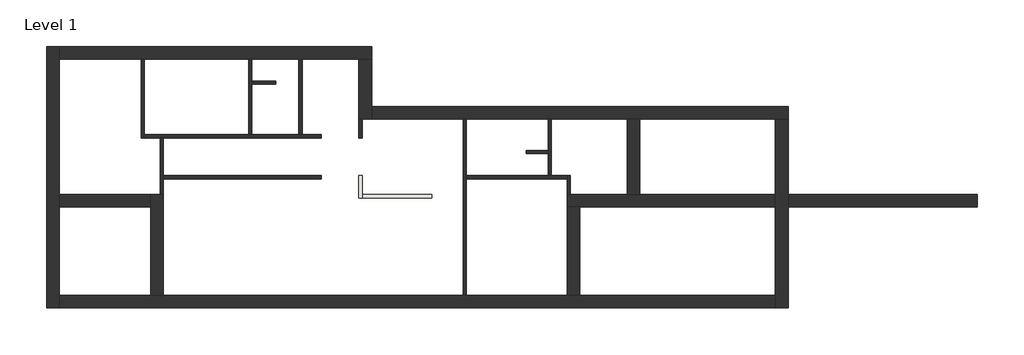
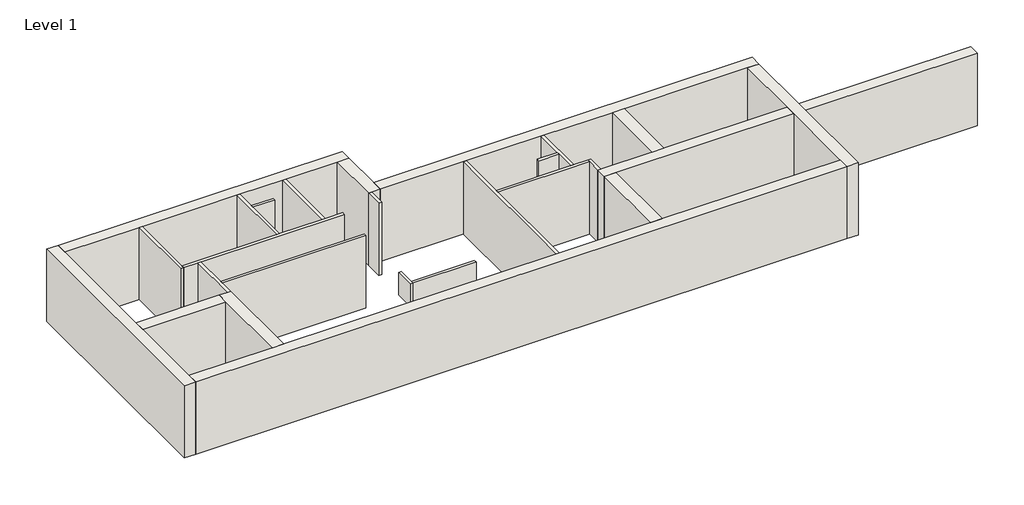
# One storey: 26 walls.
"""IFC4 building model written with IfcOpenShell, lengths in millimetres."""

from ifc_helpers import new_model, si_unit, origin, origin_with_axes, place, context, project, spatial, polyline, outline, extrude, faceted_brep, element, save

model = new_model("IFC4")

# Units and contexts
model_context = context("Model", 3, world=origin())
ifc_project = project(units=[si_unit("LENGTHUNIT", "METRE", prefix="MILLI")], contexts=[model_context])

# Site, building, storey
site = spatial("IfcSite", under=ifc_project)
building = spatial("IfcBuilding", under=site)
storey = spatial("IfcBuildingStorey", under=building, Name="Level 1", Elevation=0.0)

# Walls
placement = place(None, origin())
element("IfcWall", 1, ObjectType="Generic - 120mm (Interior)", at=placement, inside=storey, context=model_context, shape_type="Brep", body=[
    faceted_brep([(3600.0, 9480.0, 0.0), (3600.0, 6480.0, 0.0), (3600.0, 6480.0, 3200.0), (3600.0, 9480.0, 3200.0), (3720.0, 9480.0, 0.0), (3720.0, 9480.0, 3200.0), (3720.0, 6600.0, 3200.0), (3720.0, 6480.0, 3200.0), (3720.0, 6480.0, 0.0), (3720.0, 6600.0, 0.0)], [[[0, 1, 2, 3]], [[4, 5, 6, 7, 8, 9]], [[1, 0, 4, 9, 8]], [[3, 2, 7, 6, 5]], [[2, 1, 8, 7]], [[0, 3, 5, 4]]]),
])
element("IfcWall", 2, ObjectType="Generic - 120mm (Interior)", at=placement, inside=storey, context=model_context, shape_type="Brep", body=[
    faceted_brep([(3720.0, 6480.0, 0.0), (4320.0, 6480.0, 0.0), (4440.0, 6480.0, 0.0), (10440.0, 6480.0, 0.0), (10440.0, 6480.0, 3200.0), (4440.0, 6480.0, 3200.0), (4320.0, 6480.0, 3200.0), (3720.0, 6480.0, 3200.0), (3720.0, 6600.0, 0.0), (3720.0, 6600.0, 3200.0), (7680.0, 6600.0, 3200.0), (7800.0, 6600.0, 3200.0), (9600.0, 6600.0, 3200.0), (9720.0, 6600.0, 3200.0), (10440.0, 6600.0, 3200.0), (10440.0, 6600.0, 0.0), (9720.0, 6600.0, 0.0), (9600.0, 6600.0, 0.0), (7800.0, 6600.0, 0.0), (7680.0, 6600.0, 0.0)], [[[0, 1, 2, 3, 4, 5, 6, 7]], [[8, 9, 10, 11, 12, 13, 14, 15, 16, 17, 18, 19]], [[3, 2, 1, 0, 8, 19, 18, 17, 16, 15]], [[4, 3, 15, 14]], [[7, 6, 5, 4, 14, 13, 12, 11, 10, 9]], [[0, 7, 9, 8]]]),
])
element("IfcWall", 3, ObjectType="Generic - 120mm (Interior)", at=placement, inside=storey, context=model_context, shape_type="Brep", body=[
    faceted_brep([(4440.0, 4320.0, 0.0), (4440.0, 4920.0, 0.0), (4440.0, 5040.0, 0.0), (4440.0, 6480.0, 0.0), (4440.0, 6480.0, 3200.0), (4440.0, 5040.0, 3200.0), (4440.0, 4920.0, 3200.0), (4440.0, 4320.0, 3200.0), (4320.0, 4320.0, 0.0), (4320.0, 4320.0, 3200.0), (4320.0, 6480.0, 3200.0), (4320.0, 6480.0, 0.0)], [[[0, 1, 2, 3, 4, 5, 6, 7]], [[8, 9, 10, 11]], [[3, 2, 1, 0, 8, 11]], [[7, 6, 5, 4, 10, 9]], [[4, 3, 11, 10]], [[0, 7, 9, 8]]]),
])
element("IfcWall", 4, ObjectType="Generic - 120mm (Interior)", at=placement, inside=storey, context=model_context, shape_type="Brep", body=[
    faceted_brep([(7800.0, 6600.0, 0.0), (7800.0, 8520.0, 0.0), (7800.0, 8640.0, 0.0), (7800.0, 9480.0, 0.0), (7800.0, 9480.0, 3200.0), (7800.0, 8640.0, 3200.0), (7800.0, 8520.0, 3200.0), (7800.0, 6600.0, 3200.0), (7680.0, 6600.0, 0.0), (7680.0, 6600.0, 3200.0), (7680.0, 9480.0, 3200.0), (7680.0, 9480.0, 0.0)], [[[0, 1, 2, 3, 4, 5, 6, 7]], [[8, 9, 10, 11]], [[3, 2, 1, 0, 8, 11]], [[7, 6, 5, 4, 10, 9]], [[0, 7, 9, 8]], [[4, 3, 11, 10]]]),
])
element("IfcWall", 5, ObjectType="Generic - 120mm (Interior)", at=placement, inside=storey, context=model_context, shape_type="SweptSolid", body=[
    extrude(outline(polyline([(9720.0, 9480.0), (9720.0, 6600.0), (9600.0, 6600.0), (9600.0, 9480.0), (9720.0, 9480.0)])), origin_with_axes(), (0.0, 0.0, 1.0), 3200.0),
])
element("IfcWall", 6, ObjectType="Generic - 120mm (Interior)", at=placement, inside=storey, context=model_context, shape_type="Brep", body=[
    faceted_brep([(15960.0, 480.0, 0.0), (15960.0, 4920.0, 0.0), (15960.0, 5040.0, 0.0), (15960.0, 7200.0, 0.0), (15960.0, 7200.0, 3200.0), (15960.0, 5040.0, 3200.0), (15960.0, 4920.0, 3200.0), (15960.0, 480.0, 3200.0), (15840.0, 480.0, 0.0), (15840.0, 480.0, 3200.0), (15840.0, 7200.0, 3200.0), (15840.0, 7200.0, 0.0)], [[[0, 1, 2, 3, 4, 5, 6, 7]], [[8, 9, 10, 11]], [[3, 2, 1, 0, 8, 11]], [[7, 6, 5, 4, 10, 9]], [[4, 3, 11, 10]], [[0, 7, 9, 8]]]),
])
element("IfcWall", 7, ObjectType="Generic - 120mm (Interior)", at=placement, inside=storey, context=model_context, shape_type="Brep", body=[
    faceted_brep([(19920.0, 4320.0, 0.0), (19920.0, 5040.0, 0.0), (19920.0, 5040.0, 3200.0), (19920.0, 4320.0, 3200.0), (19800.0, 4320.0, 0.0), (19800.0, 4320.0, 3200.0), (19800.0, 4920.0, 3200.0), (19800.0, 5040.0, 3200.0), (19800.0, 5040.0, 0.0), (19800.0, 4920.0, 0.0)], [[[0, 1, 2, 3]], [[4, 5, 6, 7, 8, 9]], [[1, 0, 4, 9, 8]], [[3, 2, 7, 6, 5]], [[2, 1, 8, 7]], [[0, 3, 5, 4]]]),
])
element("IfcWall", 8, ObjectType="Generic - 120mm (Interior)", at=placement, inside=storey, context=model_context, shape_type="Brep", body=[
    faceted_brep([(19800.0, 5040.0, 0.0), (19200.0, 5040.0, 0.0), (19080.0, 5040.0, 0.0), (15960.0, 5040.0, 0.0), (15960.0, 5040.0, 3200.0), (19080.0, 5040.0, 3200.0), (19200.0, 5040.0, 3200.0), (19800.0, 5040.0, 3200.0), (19800.0, 4920.0, 0.0), (19800.0, 4920.0, 3200.0), (15960.0, 4920.0, 3200.0), (15960.0, 4920.0, 0.0)], [[[0, 1, 2, 3, 4, 5, 6, 7]], [[8, 9, 10, 11]], [[3, 2, 1, 0, 8, 11]], [[7, 6, 5, 4, 10, 9]], [[0, 7, 9, 8]], [[4, 3, 11, 10]]]),
])
element("IfcWall", 9, ObjectType="Generic - 120mm (Interior)", at=placement, inside=storey, context=model_context, shape_type="Brep", body=[
    faceted_brep([(19200.0, 5040.0, 0.0), (19200.0, 7200.0, 0.0), (19200.0, 7200.0, 3200.0), (19200.0, 5040.0, 3200.0), (19080.0, 5040.0, 0.0), (19080.0, 5040.0, 3200.0), (19080.0, 5880.0, 3200.0), (19080.0, 6000.0, 3200.0), (19080.0, 7200.0, 3200.0), (19080.0, 7200.0, 0.0), (19080.0, 6000.0, 0.0), (19080.0, 5880.0, 0.0)], [[[0, 1, 2, 3]], [[4, 5, 6, 7, 8, 9, 10, 11]], [[1, 0, 4, 11, 10, 9]], [[3, 2, 8, 7, 6, 5]], [[0, 3, 5, 4]], [[2, 1, 9, 8]]]),
])
element("IfcWall", 10, ObjectType="Generic - 120mm (Interior)", at=placement, inside=storey, context=model_context, shape_type="SweptSolid", body=[
    extrude(outline(polyline([(18240.0, 6000.0), (19080.0, 6000.0), (19080.0, 5880.0), (18240.0, 5880.0), (18240.0, 6000.0)])), origin_with_axes(), (0.0, 0.0, 1.0), 3200.0),
])
element("IfcWall", 11, ObjectType="Generic - 120mm (Interior)", at=placement, inside=storey, context=model_context, shape_type="SweptSolid", body=[
    extrude(outline(polyline([(8720.0, 8520.0), (7800.0, 8520.0), (7800.0, 8640.0), (8720.0, 8640.0), (8720.0, 8520.0)])), origin_with_axes(), (0.0, 0.0, 1.0), 3200.0),
])
element("IfcWall", 12, ObjectType="Generic - 120mm (Interior)", at=placement, inside=storey, context=model_context, shape_type="SweptSolid", body=[
    extrude(outline(polyline([(10440.0, 4920.0), (4440.0, 4920.0), (4440.0, 5040.0), (10440.0, 5040.0), (10440.0, 4920.0)])), origin_with_axes(), (0.0, 0.0, 1.0), 3200.0),
])
element("IfcWall", 13, ObjectType="Generic - 120mm (Interior)", at=placement, inside=storey, context=model_context, shape_type="Brep", body=[
    faceted_brep([(11880.0, 5040.0, 0.0), (11880.0, 4200.0, 0.0), (11880.0, 4200.0, 1000.0), (11880.0, 5040.0, 1000.0), (12000.0, 5040.0, 0.0), (12000.0, 5040.0, 1000.0), (12000.0, 4320.0, 1000.0), (12000.0, 4200.0, 1000.0), (12000.0, 4200.0, 0.0), (12000.0, 4320.0, 0.0)], [[[0, 1, 2, 3]], [[4, 5, 6, 7, 8, 9]], [[1, 0, 4, 9, 8]], [[3, 2, 7, 6, 5]], [[0, 3, 5, 4]], [[2, 1, 8, 7]]]),
])
element("IfcWall", 14, ObjectType="Generic - 120mm (Interior)", at=placement, inside=storey, context=model_context, shape_type="SweptSolid", body=[
    extrude(outline(polyline([(14640.0, 4200.0), (12000.0, 4200.0), (12000.0, 4320.0), (14640.0, 4320.0), (14640.0, 4200.0)])), origin_with_axes(), (0.0, 0.0, 1.0), 1000.0),
])
element("IfcWall", 15, ObjectType="Generic - 120mm (Interior)", at=placement, inside=storey, context=model_context, shape_type="SweptSolid", body=[
    extrude(outline(polyline([(11880.0, 6480.0), (11880.0, 7200.0), (12000.0, 7200.0), (12000.0, 6480.0), (11880.0, 6480.0)])), origin_with_axes(), (0.0, 0.0, 1.0), 3200.0),
])
element("IfcWall", 16, ObjectType="Generic - 480mm (Exterior)", at=placement, inside=storey, context=model_context, shape_type="Brep", body=[
    faceted_brep([(480.0, 0.0, 0.0), (480.0, 480.0, 0.0), (480.0, 3840.0, 0.0), (480.0, 4320.0, 0.0), (480.0, 9480.0, 0.0), (480.0, 9960.0, 0.0), (480.0, 9960.0, 3200.0), (480.0, 9480.0, 3200.0), (480.0, 4320.0, 3200.0), (480.0, 3840.0, 3200.0), (480.0, 480.0, 3200.0), (480.0, 0.0, 3200.0), (0.0, 0.0, 0.0), (0.0, 0.0, 3200.0), (0.0, 9960.0, 3200.0), (0.0, 9960.0, 0.0)], [[[0, 1, 2, 3, 4, 5, 6, 7, 8, 9, 10, 11]], [[12, 13, 14, 15]], [[5, 4, 3, 2, 1, 0, 12, 15]], [[11, 10, 9, 8, 7, 6, 14, 13]], [[6, 5, 15, 14]], [[0, 11, 13, 12]]]),
])
element("IfcWall", 17, ObjectType="Generic - 480mm (Exterior)", at=placement, inside=storey, context=model_context, shape_type="Brep", body=[
    faceted_brep([(480.0, 9480.0, 0.0), (3600.0, 9480.0, 0.0), (3720.0, 9480.0, 0.0), (7680.0, 9480.0, 0.0), (7800.0, 9480.0, 0.0), (9600.0, 9480.0, 0.0), (9720.0, 9480.0, 0.0), (11880.0, 9480.0, 0.0), (12360.0, 9480.0, 0.0), (12360.0, 9480.0, 3200.0), (11880.0, 9480.0, 3200.0), (9720.0, 9480.0, 3200.0), (9600.0, 9480.0, 3200.0), (7800.0, 9480.0, 3200.0), (7680.0, 9480.0, 3200.0), (3720.0, 9480.0, 3200.0), (3600.0, 9480.0, 3200.0), (480.0, 9480.0, 3200.0), (480.0, 9960.0, 0.0), (480.0, 9960.0, 3200.0), (12360.0, 9960.0, 3200.0), (12360.0, 9960.0, 0.0)], [[[0, 1, 2, 3, 4, 5, 6, 7, 8, 9, 10, 11, 12, 13, 14, 15, 16, 17]], [[18, 19, 20, 21]], [[8, 7, 6, 5, 4, 3, 2, 1, 0, 18, 21]], [[17, 16, 15, 14, 13, 12, 11, 10, 9, 20, 19]], [[0, 17, 19, 18]], [[9, 8, 21, 20]]]),
])
element("IfcWall", 18, ObjectType="Generic - 480mm (Exterior)", at=placement, inside=storey, context=model_context, shape_type="Brep", body=[
    faceted_brep([(11880.0, 9480.0, 0.0), (11880.0, 7200.0, 0.0), (11880.0, 7200.0, 3200.0), (11880.0, 9480.0, 3200.0), (12360.0, 9480.0, 0.0), (12360.0, 9480.0, 3200.0), (12360.0, 7680.0, 3200.0), (12360.0, 7200.0, 3200.0), (12360.0, 7200.0, 0.0), (12360.0, 7680.0, 0.0), (12000.0, 7200.0, 0.0), (12000.0, 7200.0, 3200.0)], [[[0, 1, 2, 3]], [[4, 5, 6, 7, 8, 9]], [[1, 0, 4, 9, 8, 10]], [[3, 2, 11, 7, 6, 5]], [[0, 3, 5, 4]], [[2, 1, 10, 8, 7, 11]]]),
])
element("IfcWall", 19, ObjectType="Generic - 480mm (Exterior)", at=placement, inside=storey, context=model_context, shape_type="Brep", body=[
    faceted_brep([(12360.0, 7200.0, 0.0), (15840.0, 7200.0, 0.0), (15960.0, 7200.0, 0.0), (19080.0, 7200.0, 0.0), (19200.0, 7200.0, 0.0), (22080.0, 7200.0, 0.0), (22560.0, 7200.0, 0.0), (27720.0, 7200.0, 0.0), (28200.0, 7200.0, 0.0), (28200.0, 7200.0, 3200.0), (27720.0, 7200.0, 3200.0), (22560.0, 7200.0, 3200.0), (22080.0, 7200.0, 3200.0), (19200.0, 7200.0, 3200.0), (19080.0, 7200.0, 3200.0), (15960.0, 7200.0, 3200.0), (15840.0, 7200.0, 3200.0), (12360.0, 7200.0, 3200.0), (12360.0, 7680.0, 0.0), (12360.0, 7680.0, 3200.0), (28200.0, 7680.0, 3200.0), (28200.0, 7680.0, 0.0)], [[[0, 1, 2, 3, 4, 5, 6, 7, 8, 9, 10, 11, 12, 13, 14, 15, 16, 17]], [[18, 19, 20, 21]], [[8, 7, 6, 5, 4, 3, 2, 1, 0, 18, 21]], [[17, 16, 15, 14, 13, 12, 11, 10, 9, 20, 19]], [[0, 17, 19, 18]], [[9, 8, 21, 20]]]),
])
element("IfcWall", 20, ObjectType="Generic - 480mm (Exterior)", at=placement, inside=storey, context=model_context, shape_type="Brep", body=[
    faceted_brep([(27720.0, 7200.0, 0.0), (27720.0, 4320.0, 0.0), (27720.0, 3840.0, 0.0), (27720.0, 480.0, 0.0), (27720.0, 0.0, 0.0), (27720.0, 0.0, 3200.0), (27720.0, 480.0, 3200.0), (27720.0, 3840.0, 3200.0), (27720.0, 4320.0, 3200.0), (27720.0, 7200.0, 3200.0), (28200.0, 7200.0, 0.0), (28200.0, 7200.0, 3200.0), (28200.0, 4320.0, 3200.0), (28200.0, 3840.0, 3200.0), (28200.0, 0.0, 3200.0), (28200.0, 0.0, 0.0), (28200.0, 3840.0, 0.0), (28200.0, 4320.0, 0.0)], [[[0, 1, 2, 3, 4, 5, 6, 7, 8, 9]], [[10, 11, 12, 13, 14, 15, 16, 17]], [[4, 3, 2, 1, 0, 10, 17, 16, 15]], [[9, 8, 7, 6, 5, 14, 13, 12, 11]], [[0, 9, 11, 10]], [[5, 4, 15, 14]]]),
])
element("IfcWall", 21, ObjectType="Generic - 480mm (Exterior)", at=placement, inside=storey, context=model_context, shape_type="Brep", body=[
    faceted_brep([(27720.0, 480.0, 0.0), (20280.0, 480.0, 0.0), (19800.0, 480.0, 0.0), (15960.0, 480.0, 0.0), (15840.0, 480.0, 0.0), (4440.0, 480.0, 0.0), (3960.0, 480.0, 0.0), (480.0, 480.0, 0.0), (480.0, 480.0, 3200.0), (3960.0, 480.0, 3200.0), (4440.0, 480.0, 3200.0), (15840.0, 480.0, 3200.0), (15960.0, 480.0, 3200.0), (19800.0, 480.0, 3200.0), (20280.0, 480.0, 3200.0), (27720.0, 480.0, 3200.0), (27720.0, 0.0, 0.0), (27720.0, 0.0, 3200.0), (480.0, 0.0, 3200.0), (480.0, 0.0, 0.0)], [[[0, 1, 2, 3, 4, 5, 6, 7, 8, 9, 10, 11, 12, 13, 14, 15]], [[16, 17, 18, 19]], [[7, 6, 5, 4, 3, 2, 1, 0, 16, 19]], [[15, 14, 13, 12, 11, 10, 9, 8, 18, 17]], [[8, 7, 19, 18]], [[0, 15, 17, 16]]]),
])
element("IfcWall", 22, ObjectType="Generic - 480mm (Exterior)", at=placement, inside=storey, context=model_context, shape_type="Brep", body=[
    faceted_brep([(4440.0, 480.0, 0.0), (4440.0, 4320.0, 0.0), (4440.0, 4320.0, 3200.0), (4440.0, 480.0, 3200.0), (3960.0, 480.0, 0.0), (3960.0, 480.0, 3200.0), (3960.0, 3840.0, 3200.0), (3960.0, 4320.0, 3200.0), (3960.0, 4320.0, 0.0), (3960.0, 3840.0, 0.0), (4320.0, 4320.0, 0.0), (4320.0, 4320.0, 3200.0)], [[[0, 1, 2, 3]], [[4, 5, 6, 7, 8, 9]], [[1, 0, 4, 9, 8, 10]], [[3, 2, 11, 7, 6, 5]], [[0, 3, 5, 4]], [[2, 1, 10, 8, 7, 11]]]),
])
element("IfcWall", 23, ObjectType="Generic - 480mm (Exterior)", at=placement, inside=storey, context=model_context, shape_type="SweptSolid", body=[
    extrude(outline(polyline([(480.0, 4320.0), (3960.0, 4320.0), (3960.0, 3840.0), (480.0, 3840.0), (480.0, 4320.0)])), origin_with_axes(), (0.0, 0.0, 1.0), 3200.0),
])
element("IfcWall", 24, ObjectType="Generic - 480mm (Exterior)", at=placement, inside=storey, context=model_context, shape_type="SweptSolid", body=[
    extrude(outline(polyline([(22080.0, 4320.0), (22080.0, 7200.0), (22560.0, 7200.0), (22560.0, 4320.0), (22080.0, 4320.0)])), origin_with_axes(), (0.0, 0.0, 1.0), 3200.0),
])
element("IfcWall", 25, ObjectType="Generic - 480mm (Exterior)", at=placement, inside=storey, context=model_context, shape_type="Brep", body=[
    faceted_brep([(35400.0, 4320.0, 3200.0), (35400.0, 4320.0, 0.0), (28200.0, 4320.0, 0.0), (28200.0, 4320.0, 3200.0), (35400.0, 3840.0, 0.0), (35400.0, 3840.0, 3200.0), (28200.0, 3840.0, 3200.0), (28200.0, 3840.0, 0.0)], [[[0, 1, 2, 3]], [[4, 5, 6, 7]], [[1, 4, 7, 2]], [[5, 0, 3, 6]], [[1, 0, 5, 4]], [[3, 2, 7, 6]]]),
    faceted_brep([(19800.0, 4320.0, 0.0), (19800.0, 4320.0, 3200.0), (19920.0, 4320.0, 3200.0), (22080.0, 4320.0, 3200.0), (22560.0, 4320.0, 3200.0), (27720.0, 4320.0, 3200.0), (27720.0, 4320.0, 0.0), (22560.0, 4320.0, 0.0), (22080.0, 4320.0, 0.0), (19920.0, 4320.0, 0.0), (19800.0, 3840.0, 3200.0), (19800.0, 3840.0, 0.0), (20280.0, 3840.0, 0.0), (27720.0, 3840.0, 0.0), (27720.0, 3840.0, 3200.0), (20280.0, 3840.0, 3200.0)], [[[0, 1, 2, 3, 4, 5, 6, 7, 8, 9]], [[10, 11, 12, 13, 14, 15]], [[11, 0, 9, 8, 7, 6, 13, 12]], [[1, 10, 15, 14, 5, 4, 3, 2]], [[1, 0, 11, 10]], [[6, 5, 14, 13]]]),
])
element("IfcWall", 26, ObjectType="Generic - 480mm (Exterior)", at=placement, inside=storey, context=model_context, shape_type="SweptSolid", body=[
    extrude(outline(polyline([(19800.0, 480.0), (19800.0, 3840.0), (20280.0, 3840.0), (20280.0, 480.0), (19800.0, 480.0)])), origin_with_axes(), (0.0, 0.0, 1.0), 3200.0),
])

save(model, "model.ifc")
